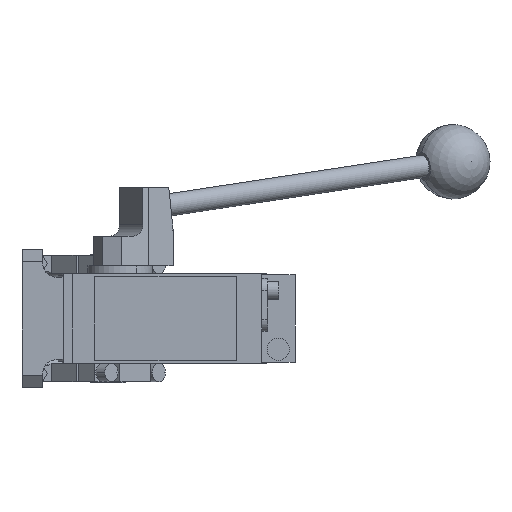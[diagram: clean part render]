
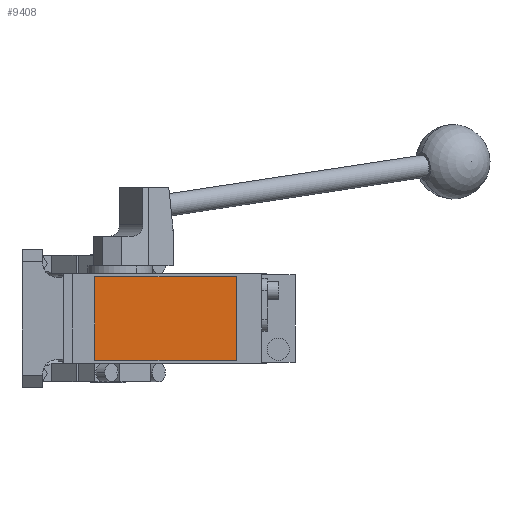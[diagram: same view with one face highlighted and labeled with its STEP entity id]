
A CAD part, front view. The second image highlights one B-rep face of the part: STEP entity #9408.
In plain terms, the highlighted planar face has unit normal (0, -1, 0).
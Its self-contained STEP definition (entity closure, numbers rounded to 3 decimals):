
#584 = DIRECTION ( 'NONE',  ( 0., -1., 0. ) ) ;
#907 = DIRECTION ( 'NONE',  ( 0., 0., -1. ) ) ;
#1100 = VERTEX_POINT ( 'NONE', #10412 ) ;
#1318 = CARTESIAN_POINT ( 'NONE',  ( -7., -280.5, -22.5 ) ) ;
#2103 = ORIENTED_EDGE ( 'NONE', *, *, #8380, .T. ) ;
#3197 = ORIENTED_EDGE ( 'NONE', *, *, #14824, .T. ) ;
#3284 = LINE ( 'NONE', #9426, #12523 ) ;
#3303 = DIRECTION ( 'NONE',  ( 0., 0., 1. ) ) ;
#4076 = VERTEX_POINT ( 'NONE', #1318 ) ;
#4681 = CARTESIAN_POINT ( 'NONE',  ( -7., -280.5, -22.5 ) ) ;
#5550 = PLANE ( 'NONE',  #8407 ) ;
#5722 = CARTESIAN_POINT ( 'NONE',  ( -7., -280.5, 22.5 ) ) ;
#6825 = DIRECTION ( 'NONE',  ( 0., 0., -1. ) ) ;
#7065 = FACE_OUTER_BOUND ( 'NONE', #13548, .T. ) ;
#7100 = DIRECTION ( 'NONE',  ( 1., 0., 0. ) ) ;
#7283 = CARTESIAN_POINT ( 'NONE',  ( 69., -280.5, 22.5 ) ) ;
#7363 = VECTOR ( 'NONE', #13810, 1000. ) ;
#7890 = LINE ( 'NONE', #12834, #7363 ) ;
#8380 = EDGE_CURVE ( 'NONE', #13053, #11409, #7890, .T. ) ;
#8407 = AXIS2_PLACEMENT_3D ( 'NONE', #12012, #584, #907 ) ;
#9378 = EDGE_CURVE ( 'NONE', #11409, #4076, #3284, .T. ) ;
#9391 = VECTOR ( 'NONE', #7100, 1000. ) ;
#9408 = ADVANCED_FACE ( 'NONE', ( #7065 ), #5550, .T. ) ;
#9426 = CARTESIAN_POINT ( 'NONE',  ( -7., -280.5, 22.5 ) ) ;
#10209 = EDGE_CURVE ( 'NONE', #1100, #13053, #11869, .T. ) ;
#10412 = CARTESIAN_POINT ( 'NONE',  ( 69., -280.5, -22.5 ) ) ;
#11409 = VERTEX_POINT ( 'NONE', #5722 ) ;
#11869 = LINE ( 'NONE', #14380, #14196 ) ;
#12012 = CARTESIAN_POINT ( 'NONE',  ( 0., -280.5, 0. ) ) ;
#12523 = VECTOR ( 'NONE', #6825, 1000. ) ;
#12834 = CARTESIAN_POINT ( 'NONE',  ( -7., -280.5, 22.5 ) ) ;
#13053 = VERTEX_POINT ( 'NONE', #7283 ) ;
#13196 = ORIENTED_EDGE ( 'NONE', *, *, #10209, .T. ) ;
#13411 = LINE ( 'NONE', #4681, #9391 ) ;
#13548 = EDGE_LOOP ( 'NONE', ( #13883, #3197, #13196, #2103 ) ) ;
#13810 = DIRECTION ( 'NONE',  ( -1., 0., 0. ) ) ;
#13883 = ORIENTED_EDGE ( 'NONE', *, *, #9378, .T. ) ;
#14196 = VECTOR ( 'NONE', #3303, 1000. ) ;
#14380 = CARTESIAN_POINT ( 'NONE',  ( 69., -280.5, 22.5 ) ) ;
#14824 = EDGE_CURVE ( 'NONE', #4076, #1100, #13411, .T. ) ;
